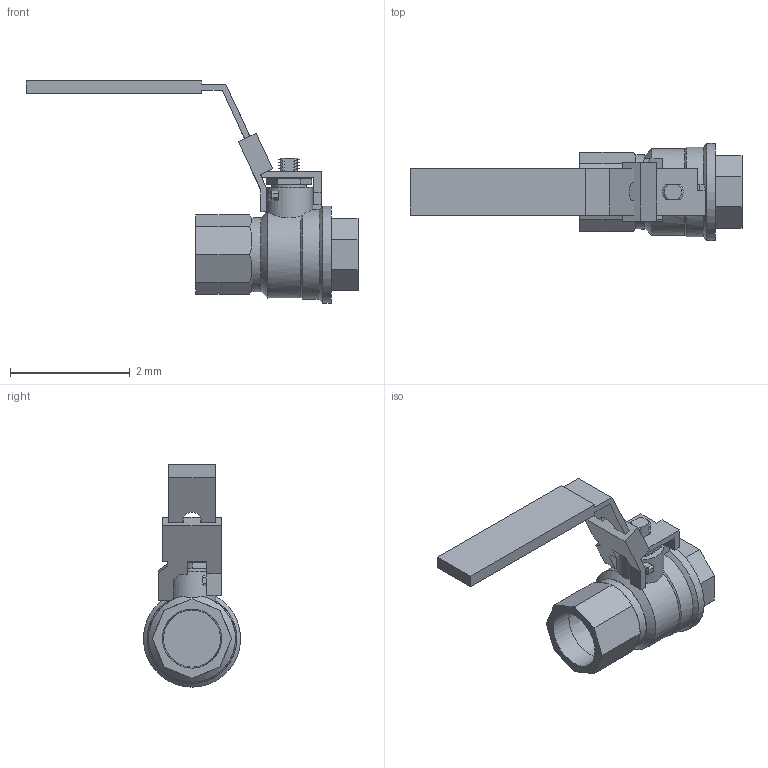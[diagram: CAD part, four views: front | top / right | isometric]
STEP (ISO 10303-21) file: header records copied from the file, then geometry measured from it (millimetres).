
FILE_DESCRIPTION(('Open CASCADE Model'),'2;1');
FILE_NAME('Open CASCADE Shape Model','2022-07-12T14:03:21',('Author'),( 'Open CASCADE'),'Open CASCADE STEP processor 7.3','Open CASCADE 7.3' ,'Unknown');
FILE_SCHEMA(('AUTOMOTIVE_DESIGN { 1 0 10303 214 1 1 1 1 }'));
Length unit declared in the file: millimetre
Products named in the file (1): Open CASCADE STEP translator 7.3 1
Bounding box: 5.55 x 1.62 x 3.72 mm (x, y, z)
Volume: 4 mm3; surface area: 35.4 mm2
Topology: 1 solids, 1 shells, 143 faces, 387 edges, 250 vertices
Faces by surface type: plane 93, cone 31, cylinder 17, sphere 2
Full cylindrical faces by diameter (mm): 0.385 x1, 0.578 x1, 0.989 x1, 1.24 x1, 1.625 x1
Entity records: 11665 total; most frequent: CARTESIAN_POINT 4345, DIRECTION 1284, LINE 816, VECTOR 816, ORIENTED_EDGE 772, PCURVE 772, DEFINITIONAL_REPRESENTATION 772, EDGE_CURVE 386
